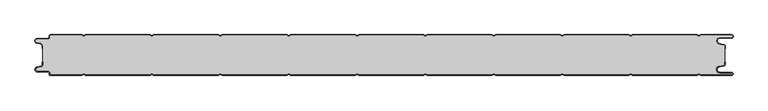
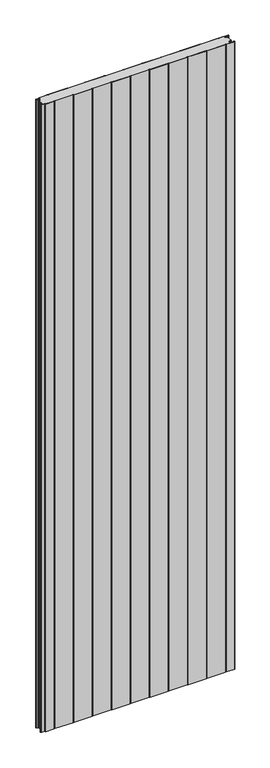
"""IFC4 building model written with IfcOpenShell, lengths in millimetres: plate geometry, PMH_Curtain-Panel_Perfil-Frigorífico : ACH_PMH_Panel-Acústico-Sectorización_60M."""

from ifc_helpers import new_model, si_unit, point, frame_2d, origin, origin_with_axes, place, context, project, spatial, polyline, circle_curve, trimmed, segment, composite_curve, outline, extrude, source, transform, mapped, element, save


def plate_37a7e260(model_context):
    return source(origin(), model_context, "Body", "SweptSolid", [
        extrude(outline(composite_curve([segment(polyline([(-500.0, 15.878557), (-500.0, 20.0), (-499.2, 20.0), (-499.2, 15.878557)]), True, "CONTINUOUS"), segment(trimmed(circle_curve(frame_2d((-502.0, 15.878557)), 2.8), [point((-499.2, 15.878557))], [point((-501.370137, 13.1503208))], False, "CARTESIAN"), True, "CONTINUOUS"), segment(polyline([(-501.370137, 13.1503208), (-507.529863, 11.728236)]), True, "CONTINUOUS"), segment(trimmed(circle_curve(frame_2d((-506.9, 9.0)), 2.8), [point((-507.529863, 11.728236))], [point((-506.9, 6.2))], True, "CARTESIAN"), True, "CONTINUOUS"), segment(polyline([(-506.9, 6.2), (-491.4, 6.2)]), True, "CONTINUOUS"), segment(trimmed(circle_curve(frame_2d((-491.4, 3.4)), 2.8), [point((-491.4, 6.2))], [point((-488.6, 3.4))], False, "CARTESIAN"), True, "CONTINUOUS"), segment(polyline([(-488.6, 3.4), (-488.6, 2.0)]), True, "CONTINUOUS"), segment(trimmed(circle_curve(frame_2d((-487.4, 2.0)), 1.2), [point((-488.6, 2.0))], [point((-487.4, 0.8))], True, "CARTESIAN"), True, "CONTINUOUS"), segment(polyline([(-487.4, 0.8), (-442.3143588, 0.8), (-439.4, 2.482606), (-436.4856412, 0.8), (-342.3143588, 0.8), (-339.4, 2.482606), (-336.4856412, 0.8), (-242.3143588, 0.8), (-239.4, 2.482606), (-236.4856412, 0.8), (-142.3143588, 0.8), (-139.4, 2.482606), (-136.4856412, 0.8), (-42.3143588, 0.8), (-39.4, 2.482606), (-36.4856412, 0.8), (57.6856412, 0.8), (60.6, 2.482606), (63.5143588, 0.8), (157.6856412, 0.8), (160.6, 2.482606), (163.5143588, 0.8), (257.6856412, 0.8), (260.6, 2.482606), (263.5143588, 0.8), (357.6856412, 0.8), (360.6, 2.482606), (363.5143588, 0.8), (457.6856412, 0.8), (460.6, 2.482606), (463.5143588, 0.8), (508.1, 0.8)]), True, "CONTINUOUS"), segment(trimmed(circle_curve(frame_2d((508.1, 2.5)), 1.7), [point((508.1, 0.8))], [point((508.1, 4.2))], True, "CARTESIAN"), True, "CONTINUOUS"), segment(polyline([(508.1, 4.2), (491.1, 4.2)]), True, "CONTINUOUS"), segment(trimmed(circle_curve(frame_2d((491.1, 9.0)), 4.8), [point((491.1, 4.2))], [point((490.2664884, 13.7270771))], False, "CARTESIAN"), True, "CONTINUOUS"), segment(polyline([(490.2664884, 13.7270771), (496.7125669, 14.8636953)]), True, "CONTINUOUS"), segment(trimmed(circle_curve(frame_2d((496.4, 16.6363492)), 1.8), [point((496.7125669, 14.8636953))], [point((498.2, 16.6363492))], True, "CARTESIAN"), True, "CONTINUOUS"), segment(polyline([(498.2, 16.6363492), (498.2, 20.0), (499.0, 20.0), (499.0, 16.6363492)]), True, "CONTINUOUS"), segment(trimmed(circle_curve(frame_2d((496.4, 16.6363492)), 2.6), [point((499.0, 16.6363492))], [point((496.8514855, 14.0758491))], False, "CARTESIAN"), True, "CONTINUOUS"), segment(polyline([(496.8514855, 14.0758491), (490.405407, 12.939231)]), True, "CONTINUOUS"), segment(trimmed(circle_curve(frame_2d((491.1, 9.0)), 4.0), [point((490.405407, 12.939231))], [point((491.1, 5.0))], True, "CARTESIAN"), True, "CONTINUOUS"), segment(polyline([(491.1, 5.0), (508.1, 5.0)]), True, "CONTINUOUS"), segment(trimmed(circle_curve(frame_2d((508.1, 2.5)), 2.5), [point((508.1, 5.0))], [point((508.1, 0.0))], False, "CARTESIAN"), True, "CONTINUOUS"), segment(polyline([(508.1, 0.0), (463.2999995, 0.0), (460.6, 1.5588455), (457.9000005, 0.0), (363.2999995, 0.0), (360.6, 1.5588455), (357.9000005, 0.0), (263.2999995, 0.0), (260.6, 1.5588455), (257.9000005, 0.0), (163.2999995, 0.0), (160.6, 1.5588455), (157.9000005, 0.0), (63.2999995, 0.0), (60.6, 1.5588455), (57.9000005, 0.0), (-36.7000005, 0.0), (-39.4, 1.5588455), (-42.0999995, 0.0), (-136.7000005, 0.0), (-139.4, 1.5588455), (-142.0999995, 0.0), (-236.7000005, 0.0), (-239.4, 1.5588455), (-242.0999995, 0.0), (-336.7000005, 0.0), (-339.4, 1.5588455), (-342.0999995, 0.0), (-436.7000005, 0.0), (-439.4, 1.5588455), (-442.0999995, 0.0), (-487.4, 0.0)]), True, "CONTINUOUS"), segment(trimmed(circle_curve(frame_2d((-487.4, 2.0)), 2.0), [point((-487.4, 0.0))], [point((-489.4, 2.0))], False, "CARTESIAN"), True, "CONTINUOUS"), segment(polyline([(-489.4, 2.0), (-489.4, 3.4)]), True, "CONTINUOUS"), segment(trimmed(circle_curve(frame_2d((-491.4, 3.4)), 2.0), [point((-489.4, 3.4))], [point((-491.4, 5.4))], True, "CARTESIAN"), True, "CONTINUOUS"), segment(polyline([(-491.4, 5.4), (-506.9, 5.4)]), True, "CONTINUOUS"), segment(trimmed(circle_curve(frame_2d((-506.9, 9.0)), 3.6), [point((-506.9, 5.4))], [point((-507.7098239, 12.5077322))], False, "CARTESIAN"), True, "CONTINUOUS"), segment(polyline([(-507.7098239, 12.5077322), (-501.5500979, 13.929817)]), True, "CONTINUOUS"), segment(trimmed(circle_curve(frame_2d((-502.0, 15.878557)), 2.0), [point((-501.5500979, 13.929817))], [point((-500.0, 15.878557))], True, "CARTESIAN"), True, "CONTINUOUS")], self_intersect=False)), origin_with_axes(), (0.0, 0.0, 1.0), 3500.0),
        extrude(outline(composite_curve([segment(trimmed(circle_curve(frame_2d((-502.0, 44.1214426)), 2.8), [point((-499.2, 44.1214426))], [point((-501.370137, 46.8496788))], True, "CARTESIAN"), True, "CONTINUOUS"), segment(polyline([(-501.370137, 46.8496788), (-507.5298631, 48.2717638)]), True, "CONTINUOUS"), segment(trimmed(circle_curve(frame_2d((-506.9, 51.0)), 2.8), [point((-507.5298631, 48.2717638))], [point((-506.9, 53.8))], False, "CARTESIAN"), True, "CONTINUOUS"), segment(polyline([(-506.9, 53.8), (-491.4000001, 53.8)]), True, "CONTINUOUS"), segment(trimmed(circle_curve(frame_2d((-491.4000001, 56.6)), 2.8), [point((-491.4000001, 53.8))], [point((-488.6000001, 56.6))], True, "CARTESIAN"), True, "CONTINUOUS"), segment(polyline([(-488.6000001, 56.6), (-488.6000001, 58.0)]), True, "CONTINUOUS"), segment(trimmed(circle_curve(frame_2d((-487.4000001, 58.0)), 1.2), [point((-488.6000001, 58.0))], [point((-487.4000001, 59.2))], False, "CARTESIAN"), True, "CONTINUOUS"), segment(polyline([(-487.4000001, 59.2), (-442.3143589, 59.2), (-439.4000001, 57.517394), (-436.4856412, 59.2), (-342.3143589, 59.2), (-339.4000001, 57.517394), (-336.4856412, 59.2), (-242.3143589, 59.2), (-239.4000001, 57.517394), (-236.4856412, 59.2), (-142.3143589, 59.2), (-139.4000001, 57.517394), (-136.4856412, 59.2), (-42.3143589, 59.2), (-39.4000001, 57.517394), (-36.4856412, 59.2), (57.6856411, 59.2), (60.5999999, 57.517394), (63.5143588, 59.2), (157.6856411, 59.2), (160.5999999, 57.517394), (163.5143588, 59.2), (257.6856411, 59.2), (260.5999999, 57.517394), (263.5143588, 59.2), (357.6856411, 59.2), (360.5999999, 57.517394), (363.5143588, 59.2), (457.6856411, 59.2), (460.5999999, 57.517394), (463.5143588, 59.2), (508.0999999, 59.2)]), True, "CONTINUOUS"), segment(trimmed(circle_curve(frame_2d((508.0999999, 57.5)), 1.7), [point((508.0999999, 59.2))], [point((508.0999999, 55.8))], False, "CARTESIAN"), True, "CONTINUOUS"), segment(polyline([(508.0999999, 55.8), (491.0999999, 55.8)]), True, "CONTINUOUS"), segment(trimmed(circle_curve(frame_2d((491.0999999, 51.0)), 4.8), [point((491.0999999, 55.8))], [point((490.2664883, 46.2729229))], True, "CARTESIAN"), True, "CONTINUOUS"), segment(polyline([(490.2664883, 46.2729229), (496.7125668, 45.1363047)]), True, "CONTINUOUS"), segment(trimmed(circle_curve(frame_2d((496.3999999, 43.3636508)), 1.8), [point((496.7125668, 45.1363047))], [point((498.1999999, 43.3636508))], False, "CARTESIAN"), True, "CONTINUOUS"), segment(polyline([(498.1999999, 43.3636508), (498.1999999, 16.6363492)]), True, "CONTINUOUS"), segment(trimmed(circle_curve(frame_2d((496.3999999, 16.6363492)), 1.8), [point((498.1999999, 16.6363492))], [point((496.7125668, 14.8636953))], False, "CARTESIAN"), True, "CONTINUOUS"), segment(polyline([(496.7125668, 14.8636953), (490.2664883, 13.7270771)]), True, "CONTINUOUS"), segment(trimmed(circle_curve(frame_2d((491.0999999, 9.0)), 4.8), [point((490.2664883, 13.7270771))], [point((491.0999999, 4.2))], True, "CARTESIAN"), True, "CONTINUOUS"), segment(polyline([(491.0999999, 4.2), (508.0999999, 4.2)]), True, "CONTINUOUS"), segment(trimmed(circle_curve(frame_2d((508.0999999, 2.5)), 1.7), [point((508.0999999, 4.2))], [point((508.0999999, 0.8))], False, "CARTESIAN"), True, "CONTINUOUS"), segment(polyline([(508.0999999, 0.8), (463.5143588, 0.8), (460.5999999, 2.482606), (457.6856411, 0.8), (363.5143588, 0.8), (360.5999999, 2.482606), (357.6856411, 0.8), (263.5143588, 0.8), (260.5999999, 2.482606), (257.6856411, 0.8), (163.5143588, 0.8), (160.5999999, 2.482606), (157.6856411, 0.8), (63.5143588, 0.8), (60.5999999, 2.482606), (57.6856411, 0.8), (-36.4856412, 0.8), (-39.4000001, 2.482606), (-42.3143589, 0.8), (-136.4856412, 0.8), (-139.4000001, 2.482606), (-142.3143589, 0.8), (-236.4856412, 0.8), (-239.4000001, 2.482606), (-242.3143589, 0.8), (-336.4856412, 0.8), (-339.4000001, 2.482606), (-342.3143589, 0.8), (-436.4856412, 0.8), (-439.4000001, 2.482606), (-442.3143589, 0.8), (-487.4000001, 0.8)]), True, "CONTINUOUS"), segment(trimmed(circle_curve(frame_2d((-487.4000001, 2.0)), 1.2), [point((-487.4000001, 0.8))], [point((-488.6000001, 2.0))], False, "CARTESIAN"), True, "CONTINUOUS"), segment(polyline([(-488.6000001, 2.0), (-488.6000001, 3.4)]), True, "CONTINUOUS"), segment(trimmed(circle_curve(frame_2d((-491.4000001, 3.4)), 2.8), [point((-488.6000001, 3.4))], [point((-491.4000001, 6.2))], True, "CARTESIAN"), True, "CONTINUOUS"), segment(polyline([(-491.4000001, 6.2), (-506.9, 6.2)]), True, "CONTINUOUS"), segment(trimmed(circle_curve(frame_2d((-506.9, 9.0)), 2.8), [point((-506.9, 6.2))], [point((-507.5298631, 11.7282362))], False, "CARTESIAN"), True, "CONTINUOUS"), segment(polyline([(-507.5298631, 11.7282362), (-501.370137, 13.1503212)]), True, "CONTINUOUS"), segment(trimmed(circle_curve(frame_2d((-502.0, 15.8785573)), 2.8), [point((-501.370137, 13.1503212))], [point((-499.2, 15.8785573))], True, "CARTESIAN"), True, "CONTINUOUS"), segment(polyline([(-499.2, 15.8785573), (-499.2, 44.1214426)]), True, "CONTINUOUS")], self_intersect=False)), origin_with_axes(), (0.0, 0.0, 1.0), 3500.0),
        extrude(outline(composite_curve([segment(trimmed(circle_curve(frame_2d((-502.0, 44.121443)), 2.0), [point((-500.0, 44.121443))], [point((-501.5500978, 46.0701831))], True, "CARTESIAN"), True, "CONTINUOUS"), segment(polyline([(-501.5500978, 46.0701831), (-507.7098239, 47.492268)]), True, "CONTINUOUS"), segment(trimmed(circle_curve(frame_2d((-506.9, 51.0)), 3.6), [point((-507.7098239, 47.492268))], [point((-506.9, 54.6))], False, "CARTESIAN"), True, "CONTINUOUS"), segment(polyline([(-506.9, 54.6), (-491.4, 54.6)]), True, "CONTINUOUS"), segment(trimmed(circle_curve(frame_2d((-491.4, 56.6)), 2.0), [point((-491.4, 54.6))], [point((-489.4, 56.6))], True, "CARTESIAN"), True, "CONTINUOUS"), segment(polyline([(-489.4, 56.6), (-489.4, 58.0)]), True, "CONTINUOUS"), segment(trimmed(circle_curve(frame_2d((-487.4, 58.0)), 2.0), [point((-489.4, 58.0))], [point((-487.4, 60.0))], False, "CARTESIAN"), True, "CONTINUOUS"), segment(polyline([(-487.4, 60.0), (-442.0999995, 60.0), (-439.4, 58.4411545), (-436.7000005, 60.0), (-342.0999995, 60.0), (-339.4, 58.4411545), (-336.7000005, 60.0), (-242.0999995, 60.0), (-239.4, 58.4411545), (-236.7000005, 60.0), (-142.0999995, 60.0), (-139.4, 58.4411545), (-136.7000005, 60.0), (-42.0999995, 60.0), (-39.4, 58.4411545), (-36.7000005, 60.0), (57.9000005, 60.0), (60.6, 58.4411545), (63.2999995, 60.0), (157.9000005, 60.0), (160.6, 58.4411545), (163.2999995, 60.0), (257.9000005, 60.0), (260.6, 58.4411545), (263.2999995, 60.0), (357.9000005, 60.0), (360.6, 58.4411545), (363.2999995, 60.0), (457.9000005, 60.0), (460.6, 58.4411545), (463.2999995, 60.0), (508.1, 60.0)]), True, "CONTINUOUS"), segment(trimmed(circle_curve(frame_2d((508.1, 57.5)), 2.5), [point((508.1, 60.0))], [point((508.1, 55.0))], False, "CARTESIAN"), True, "CONTINUOUS"), segment(polyline([(508.1, 55.0), (491.1, 55.0)]), True, "CONTINUOUS"), segment(trimmed(circle_curve(frame_2d((491.1, 51.0)), 4.0), [point((491.1, 55.0))], [point((490.405407, 47.060769))], True, "CARTESIAN"), True, "CONTINUOUS"), segment(polyline([(490.405407, 47.060769), (496.8514855, 45.9241509)]), True, "CONTINUOUS"), segment(trimmed(circle_curve(frame_2d((496.4, 43.3636508)), 2.6), [point((496.8514855, 45.9241509))], [point((499.0, 43.3636508))], False, "CARTESIAN"), True, "CONTINUOUS"), segment(polyline([(499.0, 43.3636508), (499.0, 40.0), (498.2, 40.0), (498.2, 43.3636508)]), True, "CONTINUOUS"), segment(trimmed(circle_curve(frame_2d((496.4, 43.3636508)), 1.8), [point((498.2, 43.3636508))], [point((496.7125669, 45.1363047))], True, "CARTESIAN"), True, "CONTINUOUS"), segment(polyline([(496.7125669, 45.1363047), (490.2664884, 46.2729228)]), True, "CONTINUOUS"), segment(trimmed(circle_curve(frame_2d((491.1, 51.0)), 4.8), [point((490.2664884, 46.2729228))], [point((491.1, 55.8))], False, "CARTESIAN"), True, "CONTINUOUS"), segment(polyline([(491.1, 55.8), (508.1, 55.8)]), True, "CONTINUOUS"), segment(trimmed(circle_curve(frame_2d((508.1, 57.5)), 1.7), [point((508.1, 55.8))], [point((508.1, 59.2))], True, "CARTESIAN"), True, "CONTINUOUS"), segment(polyline([(508.1, 59.2), (463.5143588, 59.2), (460.6, 57.517394), (457.6856412, 59.2), (363.5143588, 59.2), (360.6, 57.517394), (357.6856412, 59.2), (263.5143588, 59.2), (260.6, 57.517394), (257.6856412, 59.2), (163.5143588, 59.2), (160.6, 57.517394), (157.6856412, 59.2), (63.5143588, 59.2), (60.6, 57.517394), (57.6856412, 59.2), (-36.4856412, 59.2), (-39.4, 57.517394), (-42.3143588, 59.2), (-136.4856412, 59.2), (-139.4, 57.517394), (-142.3143588, 59.2), (-236.4856412, 59.2), (-239.4, 57.517394), (-242.3143588, 59.2), (-336.4856412, 59.2), (-339.4, 57.517394), (-342.3143588, 59.2), (-436.4856412, 59.2), (-439.4, 57.517394), (-442.3143588, 59.2), (-487.4, 59.2)]), True, "CONTINUOUS"), segment(trimmed(circle_curve(frame_2d((-487.4, 58.0)), 1.2), [point((-487.4, 59.2))], [point((-488.6, 58.0))], True, "CARTESIAN"), True, "CONTINUOUS"), segment(polyline([(-488.6, 58.0), (-488.6, 56.6)]), True, "CONTINUOUS"), segment(trimmed(circle_curve(frame_2d((-491.4, 56.6)), 2.8), [point((-488.6, 56.6))], [point((-491.4, 53.8))], False, "CARTESIAN"), True, "CONTINUOUS"), segment(polyline([(-491.4, 53.8), (-506.9, 53.8)]), True, "CONTINUOUS"), segment(trimmed(circle_curve(frame_2d((-506.9, 51.0)), 2.8), [point((-506.9, 53.8))], [point((-507.529863, 48.2717638))], True, "CARTESIAN"), True, "CONTINUOUS"), segment(polyline([(-507.529863, 48.2717638), (-501.370137, 46.849679)]), True, "CONTINUOUS"), segment(trimmed(circle_curve(frame_2d((-502.0, 44.121443)), 2.8), [point((-501.370137, 46.849679))], [point((-499.2, 44.121443))], False, "CARTESIAN"), True, "CONTINUOUS"), segment(polyline([(-499.2, 44.121443), (-499.2, 40.0), (-500.0, 40.0), (-500.0, 44.121443)]), True, "CONTINUOUS")], self_intersect=False)), origin_with_axes(), (0.0, 0.0, 1.0), 3500.0),
    ])


if __name__ == "__main__":
    model = new_model("IFC4")
    model_context = context("Model", 3, world=origin())
    ifc_project = project(units=[si_unit("LENGTHUNIT", "METRE", prefix="MILLI")], contexts=[model_context])
    site = spatial("IfcSite", under=ifc_project)
    building = spatial("IfcBuilding", under=site)
    placement = place(None, origin())
    plate_shape = plate_37a7e260(model_context)
    element("IfcPlate", 1, ObjectType="PMH_Curtain-Panel_Perfil-Frigorífico : ACH_PMH_Panel-Acústico-Sectorización_60M", at=placement, inside=building, context=model_context, shape_type="MappedRepresentation", body=[
        mapped(plate_shape, transform((0.0, 0.0, 0.0), x_axis=(1.0, 0.0, 0.0), y_axis=(0.0, 1.0, 0.0), z_axis=(0.0, 0.0, 1.0))),
    ])
    save(model, "model.ifc")
